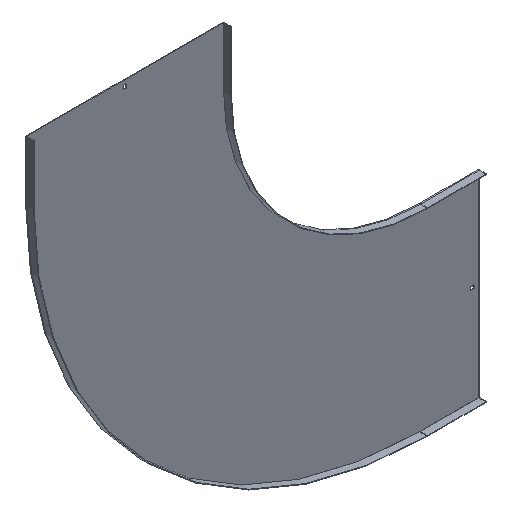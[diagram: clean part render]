
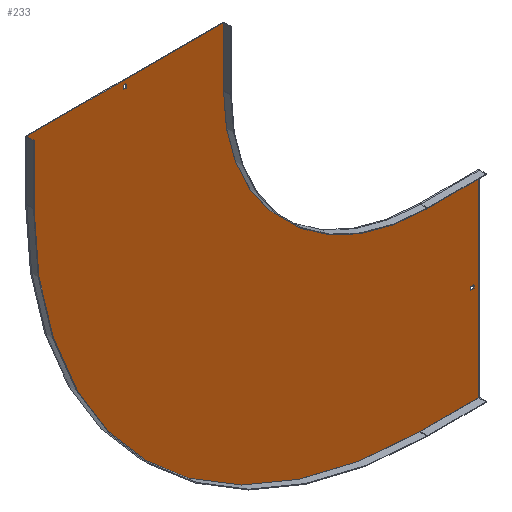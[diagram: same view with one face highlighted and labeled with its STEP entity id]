
A CAD part, isometric view. The second image highlights one B-rep face of the part: STEP entity #233.
In plain terms, the highlighted planar face has unit normal (0, -1, 0).
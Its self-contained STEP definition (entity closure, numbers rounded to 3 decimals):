
#7 = ORIENTED_EDGE ( 'NONE', *, *, #230, .T. ) ;
#9 = CARTESIAN_POINT ( 'NONE',  ( -500., -1.5, 150. ) ) ;
#15 = PLANE ( 'NONE',  #465 ) ;
#18 = CARTESIAN_POINT ( 'NONE',  ( -500., -1.5, 0. ) ) ;
#27 = ORIENTED_EDGE ( 'NONE', *, *, #493, .T. ) ;
#33 = ORIENTED_EDGE ( 'NONE', *, *, #119, .T. ) ;
#37 = DIRECTION ( 'NONE',  ( -1., 0., 0. ) ) ;
#43 = EDGE_CURVE ( 'NONE', #121, #418, #624, .T. ) ;
#57 = CARTESIAN_POINT ( 'NONE',  ( 0., -1.5, 0. ) ) ;
#58 = CARTESIAN_POINT ( 'NONE',  ( 0., -1.5, -746.75 ) ) ;
#61 = CARTESIAN_POINT ( 'NONE',  ( 0., -1.5, 138. ) ) ;
#69 = FACE_OUTER_BOUND ( 'NONE', #652, .T. ) ;
#70 = DIRECTION ( 'NONE',  ( 1., 0., 0. ) ) ;
#71 = CARTESIAN_POINT ( 'NONE',  ( 129., -1.5, -753.25 ) ) ;
#84 = CARTESIAN_POINT ( 'NONE',  ( -753.25, -1.5, 129. ) ) ;
#87 = CARTESIAN_POINT ( 'NONE',  ( 129., -1.5, 0. ) ) ;
#95 = ORIENTED_EDGE ( 'NONE', *, *, #721, .F. ) ;
#100 = CARTESIAN_POINT ( 'NONE',  ( -1000., -1.5, 0. ) ) ;
#104 = VERTEX_POINT ( 'NONE', #100 ) ;
#109 = DIRECTION ( 'NONE',  ( 0., 0., 1. ) ) ;
#119 = EDGE_CURVE ( 'NONE', #862, #516, #840, .T. ) ;
#121 = VERTEX_POINT ( 'NONE', #9 ) ;
#149 = VERTEX_POINT ( 'NONE', #281 ) ;
#153 = DIRECTION ( 'NONE',  ( 1., 0., 0. ) ) ;
#159 = CARTESIAN_POINT ( 'NONE',  ( -746.75, -1.5, 138. ) ) ;
#178 = ORIENTED_EDGE ( 'NONE', *, *, #251, .F. ) ;
#181 = CARTESIAN_POINT ( 'NONE',  ( -1000., -1.5, 0. ) ) ;
#188 = EDGE_CURVE ( 'NONE', #149, #244, #216, .T. ) ;
#193 = CARTESIAN_POINT ( 'NONE',  ( -746.75, -1.5, 129. ) ) ;
#197 = DIRECTION ( 'NONE',  ( 0., 0., -1. ) ) ;
#203 = DIRECTION ( 'NONE',  ( 0., 1., 0. ) ) ;
#206 = VECTOR ( 'NONE', #553, 1000. ) ;
#211 = CARTESIAN_POINT ( 'NONE',  ( 0., -1.5, 0. ) ) ;
#216 = LINE ( 'NONE', #537, #687 ) ;
#220 = DIRECTION ( 'NONE',  ( 0., 0., 1. ) ) ;
#223 = CIRCLE ( 'NONE', #574, 500. ) ;
#230 = EDGE_CURVE ( 'NONE', #790, #857, #824, .T. ) ;
#232 = CARTESIAN_POINT ( 'NONE',  ( -500., -1.5, 150. ) ) ;
#233 = ADVANCED_FACE ( 'NONE', ( #334, #69, #326 ), #15, .T. ) ;
#239 = ORIENTED_EDGE ( 'NONE', *, *, #292, .F. ) ;
#244 = VERTEX_POINT ( 'NONE', #818 ) ;
#249 = LINE ( 'NONE', #512, #830 ) ;
#250 = VERTEX_POINT ( 'NONE', #71 ) ;
#251 = EDGE_CURVE ( 'NONE', #360, #121, #667, .T. ) ;
#261 = CARTESIAN_POINT ( 'NONE',  ( 138., -1.5, -753.25 ) ) ;
#264 = ORIENTED_EDGE ( 'NONE', *, *, #722, .F. ) ;
#269 = CARTESIAN_POINT ( 'NONE',  ( 0., -1.5, -500. ) ) ;
#270 = CARTESIAN_POINT ( 'NONE',  ( 0., -1.5, 0. ) ) ;
#274 = CARTESIAN_POINT ( 'NONE',  ( -1001.5, -1.5, 150. ) ) ;
#280 = CARTESIAN_POINT ( 'NONE',  ( 150., -1.5, -1000. ) ) ;
#281 = CARTESIAN_POINT ( 'NONE',  ( 150., -1.5, -500. ) ) ;
#292 = EDGE_CURVE ( 'NONE', #418, #343, #223, .T. ) ;
#298 = VECTOR ( 'NONE', #314, 1000. ) ;
#314 = DIRECTION ( 'NONE',  ( -1., 0., 0. ) ) ;
#322 = DIRECTION ( 'NONE',  ( 0., 0., -1. ) ) ;
#326 = FACE_BOUND ( 'NONE', #735, .T. ) ;
#334 = FACE_BOUND ( 'NONE', #814, .T. ) ;
#343 = VERTEX_POINT ( 'NONE', #269 ) ;
#360 = VERTEX_POINT ( 'NONE', #544 ) ;
#370 = VECTOR ( 'NONE', #70, 1000. ) ;
#375 = ORIENTED_EDGE ( 'NONE', *, *, #419, .F. ) ;
#382 = VECTOR ( 'NONE', #739, 1000. ) ;
#394 = VERTEX_POINT ( 'NONE', #669 ) ;
#397 = DIRECTION ( 'NONE',  ( 0., -1., 0. ) ) ;
#406 = VECTOR ( 'NONE', #153, 1000. ) ;
#418 = VERTEX_POINT ( 'NONE', #18 ) ;
#419 = EDGE_CURVE ( 'NONE', #250, #593, #823, .T. ) ;
#434 = VECTOR ( 'NONE', #322, 1000. ) ;
#445 = DIRECTION ( 'NONE',  ( 1., 0., 0. ) ) ;
#447 = ORIENTED_EDGE ( 'NONE', *, *, #837, .F. ) ;
#452 = ORIENTED_EDGE ( 'NONE', *, *, #638, .F. ) ;
#463 = CARTESIAN_POINT ( 'NONE',  ( -753.25, -1.5, 0. ) ) ;
#464 = LINE ( 'NONE', #665, #370 ) ;
#465 = AXIS2_PLACEMENT_3D ( 'NONE', #270, #397, #615 ) ;
#466 = VECTOR ( 'NONE', #555, 1000. ) ;
#469 = DIRECTION ( 'NONE',  ( 0., 0., -1. ) ) ;
#474 = VERTEX_POINT ( 'NONE', #678 ) ;
#493 = EDGE_CURVE ( 'NONE', #516, #790, #249, .T. ) ;
#497 = CARTESIAN_POINT ( 'NONE',  ( -746.75, -1.5, 0. ) ) ;
#500 = DIRECTION ( 'NONE',  ( -1., 0., 0. ) ) ;
#501 = ORIENTED_EDGE ( 'NONE', *, *, #598, .F. ) ;
#507 = VECTOR ( 'NONE', #37, 1000. ) ;
#512 = CARTESIAN_POINT ( 'NONE',  ( 0., -1.5, 129. ) ) ;
#516 = VERTEX_POINT ( 'NONE', #193 ) ;
#522 = EDGE_CURVE ( 'NONE', #857, #862, #602, .T. ) ;
#537 = CARTESIAN_POINT ( 'NONE',  ( 150., -1.5, -498.5 ) ) ;
#538 = AXIS2_PLACEMENT_3D ( 'NONE', #57, #203, #737 ) ;
#544 = CARTESIAN_POINT ( 'NONE',  ( -1000., -1.5, 150. ) ) ;
#553 = DIRECTION ( 'NONE',  ( 0., 0., -1. ) ) ;
#555 = DIRECTION ( 'NONE',  ( 0., 0., 1. ) ) ;
#574 = AXIS2_PLACEMENT_3D ( 'NONE', #211, #758, #469 ) ;
#584 = LINE ( 'NONE', #87, #434 ) ;
#585 = ORIENTED_EDGE ( 'NONE', *, *, #522, .T. ) ;
#592 = ORIENTED_EDGE ( 'NONE', *, *, #668, .F. ) ;
#593 = VERTEX_POINT ( 'NONE', #261 ) ;
#598 = EDGE_CURVE ( 'NONE', #394, #104, #768, .T. ) ;
#601 = DIRECTION ( 'NONE',  ( 0., 0., -1. ) ) ;
#602 = LINE ( 'NONE', #61, #698 ) ;
#615 = DIRECTION ( 'NONE',  ( 0., 0., -1. ) ) ;
#617 = CARTESIAN_POINT ( 'NONE',  ( 0., -1.5, -753.25 ) ) ;
#621 = ORIENTED_EDGE ( 'NONE', *, *, #43, .F. ) ;
#624 = LINE ( 'NONE', #232, #206 ) ;
#638 = EDGE_CURVE ( 'NONE', #343, #149, #464, .T. ) ;
#647 = VERTEX_POINT ( 'NONE', #816 ) ;
#652 = EDGE_LOOP ( 'NONE', ( #178, #95, #501, #592, #854, #452, #239, #621 ) ) ;
#654 = LINE ( 'NONE', #58, #298 ) ;
#656 = LINE ( 'NONE', #280, #507 ) ;
#665 = CARTESIAN_POINT ( 'NONE',  ( 0., -1.5, -500. ) ) ;
#667 = LINE ( 'NONE', #274, #382 ) ;
#668 = EDGE_CURVE ( 'NONE', #244, #394, #656, .T. ) ;
#669 = CARTESIAN_POINT ( 'NONE',  ( 0., -1.5, -1000. ) ) ;
#678 = CARTESIAN_POINT ( 'NONE',  ( 129., -1.5, -746.75 ) ) ;
#687 = VECTOR ( 'NONE', #197, 1000. ) ;
#696 = LINE ( 'NONE', #747, #466 ) ;
#698 = VECTOR ( 'NONE', #445, 1000. ) ;
#719 = VECTOR ( 'NONE', #109, 1000. ) ;
#721 = EDGE_CURVE ( 'NONE', #104, #360, #783, .T. ) ;
#722 = EDGE_CURVE ( 'NONE', #647, #474, #654, .T. ) ;
#727 = EDGE_CURVE ( 'NONE', #474, #250, #584, .T. ) ;
#735 = EDGE_LOOP ( 'NONE', ( #585, #33, #27, #7 ) ) ;
#737 = DIRECTION ( 'NONE',  ( 0., 0., -1. ) ) ;
#739 = DIRECTION ( 'NONE',  ( 1., 0., 0. ) ) ;
#747 = CARTESIAN_POINT ( 'NONE',  ( 138., -1.5, 0. ) ) ;
#758 = DIRECTION ( 'NONE',  ( 0., -1., 0. ) ) ;
#761 = ORIENTED_EDGE ( 'NONE', *, *, #727, .F. ) ;
#768 = CIRCLE ( 'NONE', #538, 1000. ) ;
#783 = LINE ( 'NONE', #181, #719 ) ;
#790 = VERTEX_POINT ( 'NONE', #84 ) ;
#808 = VECTOR ( 'NONE', #601, 1000. ) ;
#814 = EDGE_LOOP ( 'NONE', ( #264, #447, #375, #761 ) ) ;
#816 = CARTESIAN_POINT ( 'NONE',  ( 138., -1.5, -746.75 ) ) ;
#818 = CARTESIAN_POINT ( 'NONE',  ( 150., -1.5, -1000. ) ) ;
#823 = LINE ( 'NONE', #617, #406 ) ;
#824 = LINE ( 'NONE', #463, #856 ) ;
#826 = CARTESIAN_POINT ( 'NONE',  ( -753.25, -1.5, 138. ) ) ;
#830 = VECTOR ( 'NONE', #500, 1000. ) ;
#837 = EDGE_CURVE ( 'NONE', #593, #647, #696, .T. ) ;
#840 = LINE ( 'NONE', #497, #808 ) ;
#854 = ORIENTED_EDGE ( 'NONE', *, *, #188, .F. ) ;
#856 = VECTOR ( 'NONE', #220, 1000. ) ;
#857 = VERTEX_POINT ( 'NONE', #826 ) ;
#862 = VERTEX_POINT ( 'NONE', #159 ) ;
